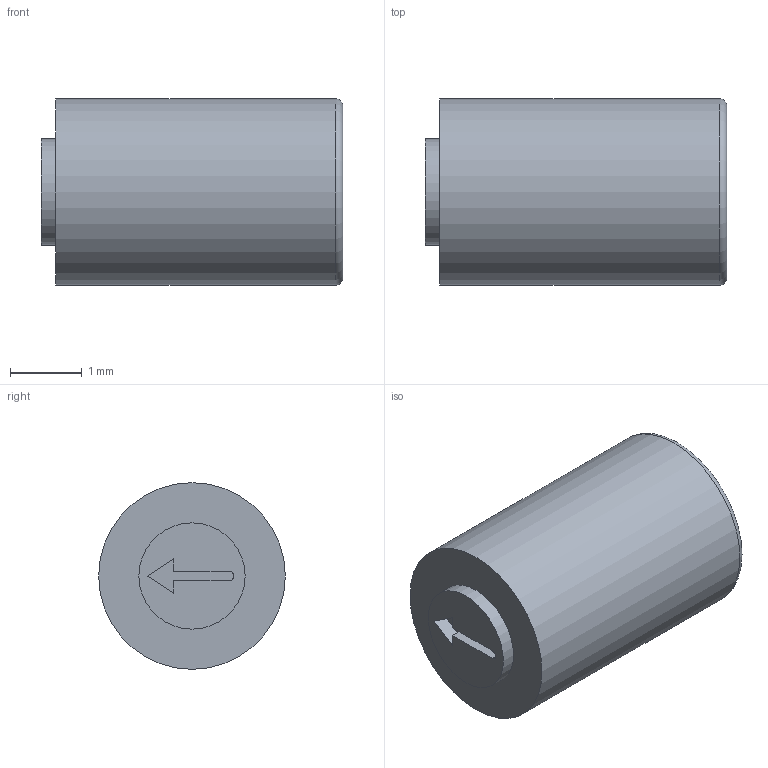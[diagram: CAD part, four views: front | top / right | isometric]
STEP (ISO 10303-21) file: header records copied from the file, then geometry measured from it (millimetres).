
FILE_DESCRIPTION( ( 'STEP AP203' ), ' ' );
FILE_NAME( 'p:/temp/worker_125/5100_472/app_90_12017012510185225915478260eae72_000000_00_00_000000/format_0/FOB0002,6(0.2).stp', '2017-01-25T09:18:52', ( '' ), ( '' ), ' ', 'PARTsolutions', ' ' );
FILE_SCHEMA( ( 'CONFIG_CONTROL_DESIGN' ) );
Length unit declared in the file: millimetre
Products named in the file (3): FOB0002,6(0.2); _FOB0002,6(0.2)1; _FOB0002,6(0.2)2
Assembly tree (2 placements, depth 2):
  FOB0002,6(0.2)
    _FOB0002,6(0.2)1
    _FOB0002,6(0.2)2
Bounding box: 4.2 x 2.6 x 2.6 mm (x, y, z)
Volume: 18 mm3; surface area: 73.5 mm2
Topology: 2 solids, 2 shells, 23 faces, 44 edges, 28 vertices
Faces by surface type: plane 13, cylinder 6, cone 3, torus 1
Full cylindrical faces by diameter (mm): 0.608 x1, 0.8 x1, 1.48 x2, 2.6 x1
Entity records: 649 total; most frequent: DIRECTION 103, CARTESIAN_POINT 89, ORIENTED_EDGE 70, AXIS2_PLACEMENT_3D 42, EDGE_LOOP 37, EDGE_CURVE 35, FACE_OUTER_BOUND 29, VERTEX_POINT 28
